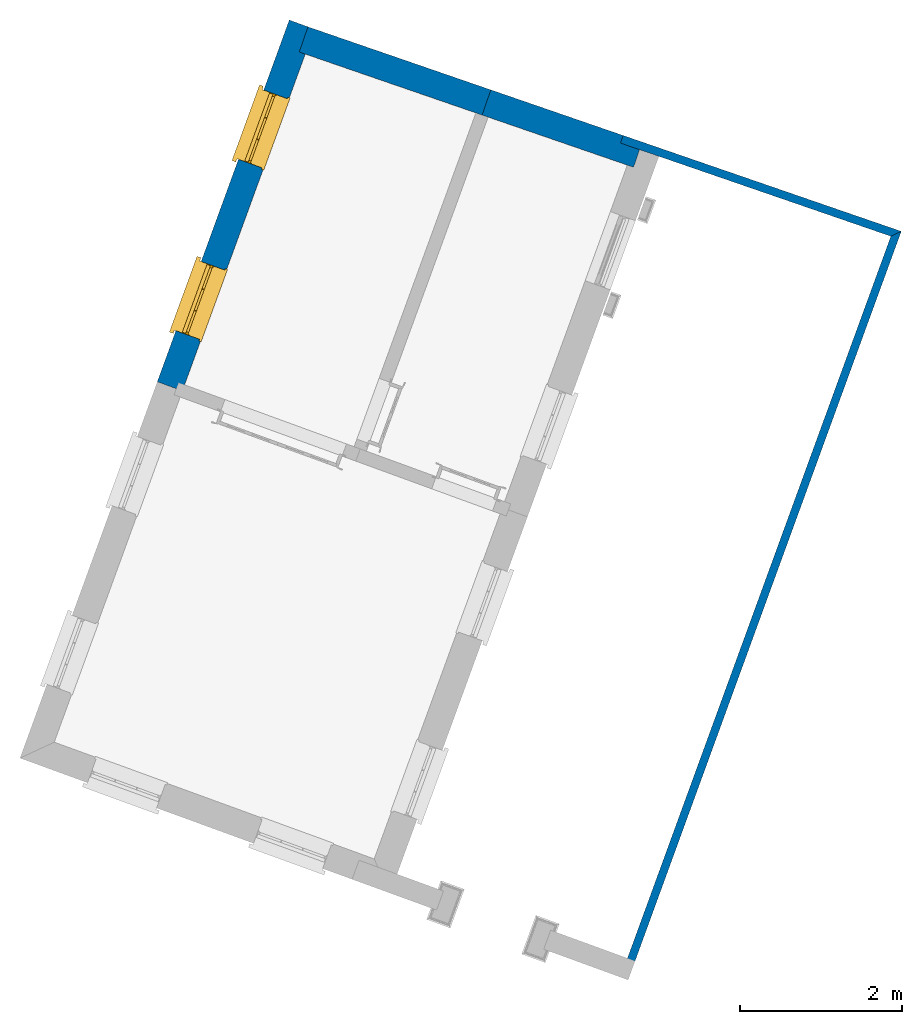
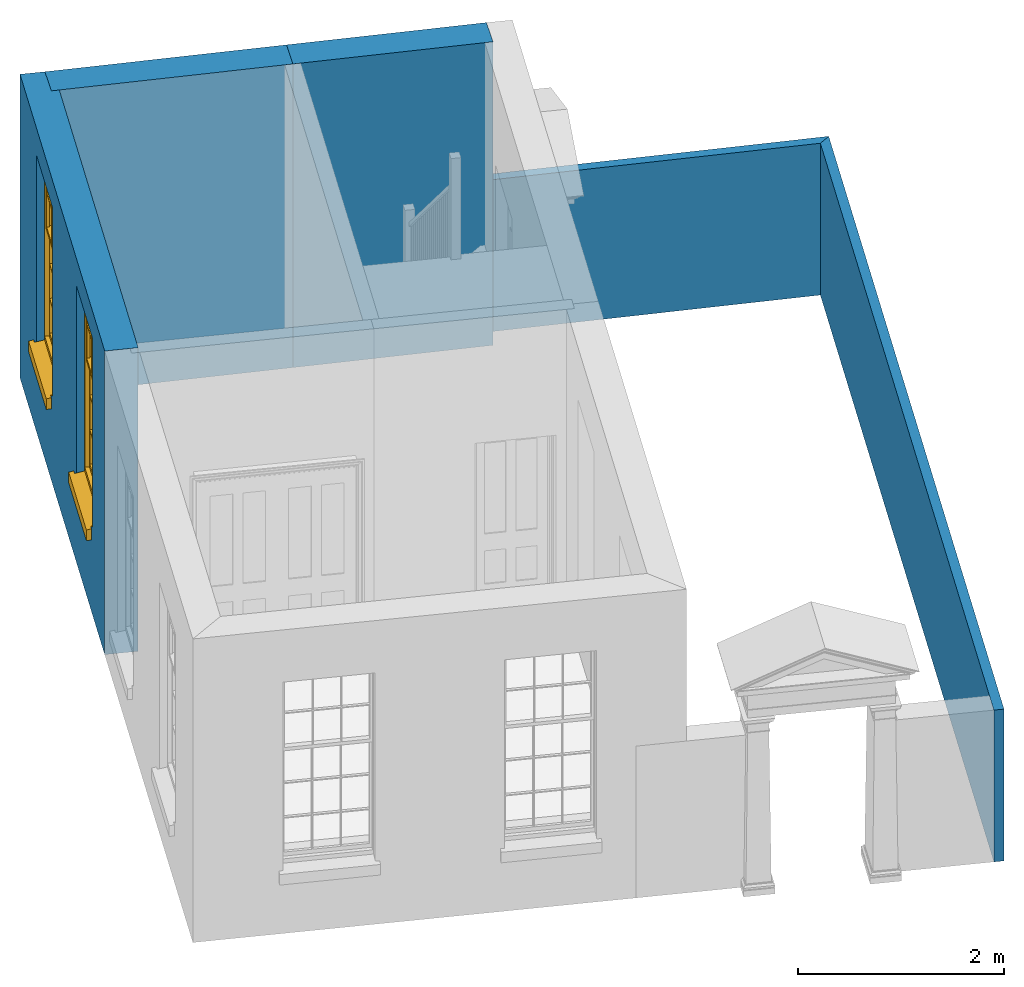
# One storey, part 6 of 6: 5 walls, 2 windows, 2 openings.
"""IFC4 building model written with IfcOpenShell, lengths in metres."""

from ifc_helpers import new_model, si_unit, frame, origin, origin_with_axes, place, context, subcontext, project, spatial, polyline, outline, extrude, faceted_brep, source, transform, mapped, material, layer, layer_set, layer_usage, type_object, type_shapes, element, fill, save


model = new_model("IFC4")

# Units and contexts
model_context = context("Model", 3, world=origin_with_axes())
body_context = subcontext(model_context, "Body", "Model", "MODEL_VIEW")
ifc_project = project(units=[si_unit("PLANEANGLEUNIT", "RADIAN"), si_unit("MASSUNIT", "GRAM", prefix="KILO"), si_unit("FORCEUNIT", "NEWTON", prefix="KILO"), si_unit("LENGTHUNIT", "METRE"), si_unit("AREAUNIT", "SQUARE_METRE"), si_unit("VOLUMEUNIT", "CUBIC_METRE")], contexts=[model_context, model_context])

# Sites, building, storey
site_1_placement = place(None, origin_with_axes())
site_1 = spatial("IfcSite", under=ifc_project, at=site_1_placement, Name="Tamar")
site_2_placement = place(site_1_placement, origin_with_axes())
site_2 = spatial("IfcSite", under=site_1, at=site_2_placement, Name="Site plot-12", CompositionType="ELEMENT")
building_placement = place(None, origin_with_axes())
building = spatial("IfcBuilding", under=site_2, at=building_placement, Name="Building plot-12", CompositionType="ELEMENT")
storey_placement = place(None, frame((0.0, 0.0, 26.0), z_axis=(0.0, 0.0, 1.0), x_axis=(1.0, 0.0, 0.0)))
storey = spatial("IfcBuildingStorey", under=building, at=storey_placement, Name="plot-12 0", CompositionType="ELEMENT", Elevation=26.0)

# Wall, openings, windows
ifc_material_1 = material(Name="Masonry")
ifc_layer_1 = layer(ifc_material_1, 0.33, ventilated=False)
ifc_layer_set_1 = layer_set([ifc_layer_1], Name="exterior_0.08_0.25")
ifc_layer_usage_1 = layer_usage(ifc_layer_set_1, "AXIS2", "POSITIVE", -0.25)
wall_type_1 = type_object("IfcWallType", Name="exterior_0.08_0.25", PredefinedType="SOLIDWALL", material=ifc_layer_set_1)
wall_1_placement = place(storey_placement, frame((236.923699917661, 310.05769530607, 0.0), z_axis=(0.0, 0.0, 1.0), x_axis=(-0.342734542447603, -0.939432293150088, 0.0)))
wall_1 = element("IfcWall", 1, at=wall_1_placement, inside=storey, type_object=wall_type_1, material=ifc_layer_usage_1, Name="exterior", context=body_context, shape_type="SweptSolid", body=[
    extrude(outline(polyline([(-0.249999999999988, 0.0800000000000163), (-0.25000000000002, -0.249999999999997), (4.50943219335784, -0.250000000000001), (4.50943219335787, 0.0800000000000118), (-0.249999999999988, 0.0800000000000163)])), origin_with_axes(), (0.0, 0.0, 1.0), 3.6),
])
opening_1_placement = place(wall_1_placement, frame((0.672358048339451, 0.0, 1.05)))
opening_1 = element("IfcOpeningElement", 2, at=opening_1_placement, cuts=wall_1, Name="My Opening", ObjectType="Opening", context=body_context, shape_type="SweptSolid", body=[
    extrude(outline(polyline([(0.0, -0.269999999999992), (0.910000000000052, -0.269999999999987), (0.910000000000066, 1.1), (1.47659662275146e-14, 1.09999999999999), (0.0, -0.269999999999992)])), origin_with_axes(), (0.0, 0.0, 1.0), 2.23),
])
opening_2_placement = place(wall_1_placement, frame((2.92707414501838, 0.0, 1.05)))
opening_2 = element("IfcOpeningElement", 3, at=opening_2_placement, cuts=wall_1, Name="My Opening", ObjectType="Opening", context=body_context, shape_type="SweptSolid", body=[
    extrude(outline(polyline([(0.0, -0.26999999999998), (0.910000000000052, -0.269999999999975), (0.910000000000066, 1.10000000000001), (1.4210854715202e-14, 1.10000000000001), (0.0, -0.26999999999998)])), origin_with_axes(), (0.0, 0.0, 1.0), 2.23),
])
window_type = type_object("IfcWindowType", Name="sash_big_taller", PartitioningType="DOUBLE_PANEL_HORIZONTAL", PredefinedType="NOTDEFINED")
shared_shape = source(origin(), body_context, "Body", "Brep", [
    faceted_brep([(0.033125, 0.145, 1.385209), (0.01, 0.145, 1.385209), (0.033125, 0.145, 1.786042), (0.876875, 0.145, 1.385209), (0.876875, 0.145, 1.786042), (0.9, 0.145, 1.385209), (0.876875, 0.145, 1.796042), (0.876875, 0.145, 2.196875), (0.9, 0.145, 2.22), (0.033125, 0.145, 2.196875), (0.033125, 0.145, 1.796042), (0.01, 0.145, 2.22), (0.876875, 0.115, 1.786042), (0.876875, 0.115, 1.385209), (0.9, 0.115, 1.347084), (0.033125, 0.115, 2.196875), (0.01, 0.115, 2.22), (0.033125, 0.115, 1.796042), (0.01, 0.115, 1.347084), (0.033125, 0.115, 1.385209), (0.033125, 0.115, 1.786042), (0.876875, 0.115, 2.196875), (0.876875, 0.115, 1.796042), (0.9, 0.115, 2.22), (0.033125, 0.145, 1.347084), (0.01, 0.145, 1.347084), (0.033125, 0.145, 0.94625), (0.876875, 0.145, 1.347084), (0.876875, 0.145, 0.94625), (0.9, 0.145, 1.347084), (0.876875, 0.145, 0.52625), (0.876875, 0.145, 0.125417), (0.9, 0.145, 0.077167), (0.033125, 0.145, 0.125417), (0.033125, 0.145, 0.52625), (0.01, 0.145, 0.077167), (-0.0425, 0.0, 0.01), (-0.0425, -0.05, 0.001667), (0.0, 0.0, 0.01), (0.9525, 0.0, 0.01), (0.91, 0.0, 0.01), (0.9525, -0.05, 0.001667), (-0.02, 0.33, 0.077167), (0.0, 0.33, 0.077167), (-0.02, 0.36, 0.077167), (0.0, 0.19, 0.077167), (0.01, 0.19, 0.077167), (0.91, 0.19, 0.077167), (0.91, 0.33, 0.077167), (0.9, 0.19, 0.077167), (0.93, 0.33, 0.077167), (0.93, 0.36, 0.077167), (0.01, 0.175, 1.385209), (0.9, 0.175, 1.385209), (0.876875, 0.175, 0.125417), (0.876875, 0.175, 0.52625), (0.9, 0.175, 0.077167), (0.876875, 0.175, 0.94625), (0.876875, 0.175, 1.347084), (0.033125, 0.175, 0.125417), (0.01, 0.175, 0.077167), (0.033125, 0.175, 0.52625), (0.033125, 0.175, 1.347084), (0.033125, 0.175, 0.94625), (-0.02, 0.33, 0.052167), (-0.02, 0.36, 0.052167), (0.93, 0.36, 0.052167), (0.93, 0.33, 0.052167), (0.91, 0.33, 0.052167), (0.0, 0.33, 0.052167), (0.91, 0.1, 0.026667), (0.0, 0.1, 0.026667), (-0.0425, -0.05, -0.123333), (0.9525, -0.05, -0.123333), (-0.0425, 0.0, -0.123333), (0.9525, 0.0, -0.123333), (0.01, 0.19, 2.22), (0.9, 0.19, 2.22), (0.0, 0.19, 2.23), (0.91, 0.19, 2.23), (0.01, 0.1, 0.077167), (0.9, 0.1, 0.077167), (0.592292, 0.145, 0.125417), (0.592292, 0.175, 0.125417), (0.317708, 0.175, 0.125417), (0.317708, 0.145, 0.125417), (0.592292, 0.145, 0.53625), (0.317708, 0.145, 0.53625), (0.317708, 0.145, 0.52625), (0.592292, 0.145, 0.52625), (0.592292, 0.175, 0.53625), (0.317708, 0.175, 0.53625), (0.592292, 0.115, 1.796042), (0.592292, 0.145, 1.796042), (0.317708, 0.145, 1.796042), (0.317708, 0.115, 1.796042), (0.317708, 0.115, 1.786042), (0.592292, 0.115, 1.786042), (0.317708, 0.145, 1.786042), (0.592292, 0.145, 1.786042), (0.602292, 0.115, 1.786042), (0.592292, 0.115, 1.385209), (0.602292, 0.115, 1.385209), (0.602292, 0.145, 1.385209), (0.592292, 0.145, 1.385209), (0.602292, 0.145, 1.786042), (0.876875, 0.145, 0.53625), (0.876875, 0.175, 0.53625), (0.602292, 0.175, 0.53625), (0.602292, 0.145, 0.53625), (0.317708, 0.175, 0.52625), (0.307708, 0.175, 0.125417), (0.307708, 0.175, 0.52625), (0.602292, 0.175, 0.52625), (0.602292, 0.175, 0.125417), (0.592292, 0.175, 0.52625), (0.307708, 0.175, 0.53625), (0.033125, 0.175, 0.53625), (0.317708, 0.175, 1.347084), (0.317708, 0.175, 0.94625), (0.307708, 0.175, 0.94625), (0.307708, 0.175, 1.347084), (0.602292, 0.175, 1.347084), (0.602292, 0.175, 0.94625), (0.592292, 0.175, 0.94625), (0.592292, 0.175, 1.347084), (0.307708, 0.145, 0.52625), (0.307708, 0.145, 0.125417), (0.307708, 0.145, 0.53625), (0.033125, 0.145, 0.53625), (0.307708, 0.145, 1.347084), (0.307708, 0.145, 0.94625), (0.592292, 0.145, 1.347084), (0.592292, 0.145, 0.94625), (0.317708, 0.145, 0.94625), (0.317708, 0.145, 1.347084), (0.602292, 0.145, 0.94625), (0.602292, 0.145, 1.347084), (0.602292, 0.145, 0.52625), (0.602292, 0.145, 0.125417), (0.307708, 0.115, 1.796042), (0.307708, 0.115, 1.786042), (0.307708, 0.115, 1.385209), (0.317708, 0.115, 1.385209), (0.317708, 0.115, 2.196875), (0.307708, 0.115, 2.196875), (0.602292, 0.115, 2.196875), (0.592292, 0.115, 2.196875), (0.602292, 0.115, 1.796042), (0.602292, 0.145, 1.796042), (0.307708, 0.145, 1.796042), (0.307708, 0.145, 2.196875), (0.317708, 0.145, 2.196875), (0.592292, 0.145, 2.196875), (0.602292, 0.145, 2.196875), (0.307708, 0.145, 1.786042), (0.317708, 0.145, 1.385209), (0.307708, 0.145, 1.385209), (0.876875, 0.175, 0.93625), (0.033125, 0.175, 0.93625), (0.033125, 0.145, 0.93625), (0.876875, 0.145, 0.93625), (0.91, 0.1, 2.23), (0.9, 0.1, 2.22), (0.01, 0.1, 2.22), (0.0, 0.1, 2.23), (0.91, 0.0, 0.0), (0.0, 0.0, 0.0), (0.91, 0.33, 0.0), (0.0, 0.33, 0.0), (0.317708, 0.145, 0.93625), (0.592292, 0.145, 0.93625), (0.317708, 0.175, 0.93625), (0.307708, 0.175, 0.93625), (0.602292, 0.175, 0.93625), (0.592292, 0.175, 0.93625), (0.307708, 0.145, 0.93625), (0.602292, 0.145, 0.93625)], [[[0, 1, 2]], [[3, 4, 5]], [[6, 7, 8]], [[9, 10, 11]], [[12, 13, 14]], [[15, 16, 17]], [[18, 19, 20]], [[21, 22, 23]], [[24, 25, 26]], [[27, 28, 29]], [[30, 31, 32]], [[33, 34, 35]], [[14, 27, 29]], [[25, 24, 18]], [[36, 37, 38]], [[39, 40, 41]], [[42, 43, 44]], [[45, 46, 43]], [[47, 48, 49]], [[50, 51, 48]], [[1, 0, 52]], [[5, 53, 3]], [[54, 55, 56]], [[57, 58, 53]], [[59, 60, 61]], [[62, 63, 52]], [[48, 43, 46, 49]], [[51, 44, 43, 48]], [[64, 42, 44, 65]], [[65, 44, 51, 66]], [[66, 51, 50, 67]], [[65, 66, 68, 69]], [[60, 56, 49, 46]], [[70, 71, 38, 40]], [[37, 41, 40, 38]], [[37, 72, 73, 41]], [[74, 75, 73, 72]], [[8, 11, 76, 77]], [[76, 78, 79, 77]], [[32, 35, 80, 81]], [[81, 80, 71, 70]], [[82, 83, 84, 85]], [[86, 87, 88, 89]], [[86, 90, 91, 87]], [[92, 93, 94, 95]], [[92, 95, 96, 97]], [[96, 98, 99, 97]], [[100, 97, 101, 102]], [[103, 104, 99, 105]], [[97, 99, 104, 101]], [[102, 103, 105, 100]], [[106, 107, 108, 109]], [[110, 84, 111, 112]], [[113, 114, 83, 115]], [[116, 112, 61, 117]], [[90, 115, 110, 91]], [[118, 119, 120, 121]], [[122, 123, 124, 125]], [[113, 108, 107, 55]], [[126, 112, 111, 127]], [[34, 61, 112, 126]], [[89, 115, 83, 82]], [[88, 110, 115, 89]], [[85, 84, 110, 88]], [[128, 116, 117, 129]], [[130, 121, 120, 131]], [[132, 125, 124, 133]], [[134, 119, 118, 135]], [[136, 123, 122, 137]], [[138, 113, 55, 30]], [[139, 114, 113, 138]], [[138, 30, 106, 109]], [[88, 126, 127, 85]], [[138, 89, 82, 139]], [[137, 132, 133, 136]], [[128, 129, 34, 126]], [[135, 130, 131, 134]], [[140, 17, 20, 141]], [[96, 141, 142, 143]], [[144, 145, 140, 95]], [[146, 147, 92, 148]], [[100, 12, 22, 148]], [[149, 6, 4, 105]], [[94, 150, 151, 152]], [[149, 93, 153, 154]], [[99, 98, 94, 93]], [[155, 2, 10, 150]], [[156, 157, 155, 98]], [[141, 155, 157, 142]], [[20, 2, 155, 141]], [[143, 156, 98, 96]], [[140, 150, 10, 17]], [[145, 151, 150, 140]], [[147, 153, 93, 92]], [[95, 94, 152, 144]], [[22, 6, 149, 148]], [[148, 149, 154, 146]], [[100, 105, 4, 12]], [[109, 86, 89, 138]], [[108, 113, 115, 90]], [[91, 110, 112, 116]], [[87, 128, 126, 88]], [[97, 100, 148, 92]], [[141, 96, 95, 140]], [[98, 155, 150, 94]], [[105, 99, 93, 149]], [[143, 101, 104, 156]], [[135, 118, 125, 132]], [[144, 152, 153, 147]], [[127, 111, 59, 33]], [[15, 9, 151, 145]], [[146, 154, 7, 21]], [[31, 54, 114, 139]], [[36, 74, 72, 37]], [[39, 41, 73, 75]], [[18, 14, 101, 143]], [[23, 16, 144, 147]], [[83, 56, 60, 84]], [[52, 53, 125, 118]], [[53, 52, 156, 104]], [[11, 8, 153, 152]], [[14, 18, 135, 132]], [[2, 1, 11, 10]], [[8, 5, 4, 6]], [[57, 53, 56, 158]], [[60, 52, 63, 159]], [[26, 25, 35, 160]], [[32, 29, 28, 161]], [[14, 23, 22, 12]], [[18, 20, 17, 16]], [[19, 0, 2, 20]], [[17, 10, 9, 15]], [[12, 4, 3, 13]], [[21, 7, 6, 22]], [[27, 58, 57, 28]], [[30, 55, 54, 31]], [[33, 59, 61, 34]], [[26, 63, 62, 24]], [[5, 8, 77, 53]], [[76, 11, 1, 52]], [[46, 45, 78, 76]], [[49, 77, 79, 47]], [[70, 162, 163, 81]], [[71, 80, 164, 165]], [[19, 142, 157, 0]], [[102, 13, 3, 103]], [[121, 130, 24, 62]], [[29, 32, 81, 14]], [[80, 35, 25, 18]], [[60, 46, 76, 52]], [[77, 49, 56, 53]], [[23, 14, 81, 163]], [[16, 164, 80, 18]], [[35, 85, 127]], [[127, 33, 35]], [[139, 82, 32]], [[32, 31, 139]], [[32, 82, 85, 35]], [[102, 101, 14]], [[14, 13, 102]], [[18, 143, 142]], [[142, 19, 18]], [[146, 21, 23]], [[23, 147, 146]], [[16, 15, 145]], [[145, 144, 16]], [[11, 152, 151]], [[151, 9, 11]], [[154, 153, 8]], [[8, 7, 154]], [[23, 163, 164, 16]], [[162, 165, 164, 163]], [[52, 118, 121]], [[121, 62, 52]], [[125, 53, 122]], [[58, 122, 53]], [[27, 137, 122, 58]], [[56, 83, 114]], [[114, 54, 56]], [[111, 84, 60]], [[60, 59, 111]], [[137, 27, 14]], [[14, 132, 137]], [[130, 135, 18]], [[18, 24, 130]], [[157, 156, 52]], [[52, 0, 157]], [[103, 3, 53]], [[53, 104, 103]], [[79, 78, 165, 162]], [[78, 45, 71, 165]], [[162, 70, 47, 79]], [[166, 75, 74, 167]], [[68, 66, 67]], [[48, 68, 67, 50]], [[69, 64, 65]], [[42, 64, 69, 43]], [[69, 68, 168, 169]], [[70, 68, 48, 47]], [[166, 168, 68, 70]], [[43, 69, 71, 45]], [[69, 169, 167, 71]], [[168, 166, 167, 169]], [[38, 167, 74, 36]], [[71, 167, 38]], [[39, 75, 166, 40]], [[40, 166, 70]], [[133, 134, 170, 171]], [[133, 124, 119, 134]], [[28, 57, 123, 136]], [[172, 91, 116, 173]], [[174, 108, 90, 175]], [[120, 173, 159, 63]], [[124, 175, 172, 119]], [[174, 123, 57, 158]], [[176, 173, 116, 128]], [[160, 159, 173, 176]], [[171, 175, 90, 86]], [[170, 172, 175, 171]], [[87, 91, 172, 170]], [[131, 120, 63, 26]], [[177, 174, 158, 161]], [[109, 108, 174, 177]], [[177, 161, 28, 136]], [[170, 176, 128, 87]], [[177, 171, 86, 109]], [[131, 26, 160, 176]], [[136, 133, 171, 177]], [[123, 174, 175, 124]], [[119, 172, 173, 120]], [[134, 131, 176, 170]], [[129, 117, 159, 160]], [[161, 158, 107, 106]], [[35, 34, 129]], [[35, 129, 160]], [[32, 106, 30]], [[32, 161, 106]], [[56, 55, 107]], [[56, 107, 158]], [[60, 117, 61]], [[60, 159, 117]]]),
])
type_shapes(window_type, [shared_shape])
window_1_placement = place(storey_placement, frame((236.439612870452, 309.518598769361, 1.05), z_axis=(0.0, 0.0, 1.0), x_axis=(-0.311888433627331, -0.85488338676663, 0.0)))
window_1 = element("IfcWindow", 4, at=window_1_placement, inside=storey, type_object=window_type, Name="kitchen street window", OverallHeight=2.23, OverallWidth=0.91, context=body_context, shape_type="MappedRepresentation", body=[
    mapped(shared_shape, transform((0.0, 0.0, 0.0), scale=1.0)),
])
fill(opening_1, window_1)
window_2_placement = place(storey_placement, frame((235.666843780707, 307.400445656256, 1.05), z_axis=(0.0, 0.0, 1.0), x_axis=(-0.311888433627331, -0.85488338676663, 0.0)))
window_2 = element("IfcWindow", 5, at=window_2_placement, inside=storey, type_object=window_type, Name="kitchen street window", OverallHeight=2.23, OverallWidth=0.91, context=body_context, shape_type="MappedRepresentation", body=[
    mapped(shared_shape, transform((0.0, 0.0, 0.0), scale=1.0)),
])
fill(opening_2, window_2)

# Walls
ifc_material_2 = material(Name="Masonry")
ifc_layer_2 = layer(ifc_material_2, 0.33, ventilated=False)
ifc_layer_set_2 = layer_set([ifc_layer_2], Name="party_0.08_0.25")
ifc_layer_usage_2 = layer_usage(ifc_layer_set_2, "AXIS2", "POSITIVE", -0.25)
wall_type_2 = type_object("IfcWallType", Name="party_0.08_0.25", PredefinedType="SOLIDWALL", material=ifc_layer_set_2)
wall_2_placement = place(storey_placement, frame((241.054904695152, 308.633725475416, 0.0), z_axis=(0.0, 0.0, 1.0), x_axis=(-0.945414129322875, 0.325871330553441, 0.0)))
element("IfcWall", 6, at=wall_2_placement, inside=storey, type_object=wall_type_2, material=ifc_layer_usage_2, Name="party", context=body_context, shape_type="SweptSolid", body=[
    extrude(outline(polyline([(7.50112444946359e-15, 0.0799999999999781), (-4.5921174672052e-15, -0.250000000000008), (1.97949901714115, -0.250000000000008), (1.97949901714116, 0.0799999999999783), (7.50112444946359e-15, 0.0799999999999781)])), origin_with_axes(), (0.0, 0.0, 1.0), 3.6),
])
wall_3_placement = place(storey_placement, frame((239.183458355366, 309.278787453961, 0.0), z_axis=(0.0, 0.0, 1.0), x_axis=(-0.945414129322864, 0.325871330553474, 0.0)))
element("IfcWall", 7, at=wall_3_placement, inside=storey, type_object=wall_type_2, material=ifc_layer_usage_2, Name="party", context=body_context, shape_type="SweptSolid", body=[
    extrude(outline(polyline([(4.73000777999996e-15, 0.0799999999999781), (4.06762212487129e-15, -0.250000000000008), (2.3902312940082, -0.250000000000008), (2.3902312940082, 0.0799999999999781), (4.73000777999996e-15, 0.0799999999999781)])), origin_with_axes(), (0.0, 0.0, 1.0), 3.6),
])
ifc_material_3 = material(Name="Masonry")
ifc_layer_3 = layer(ifc_material_3, 0.1, ventilated=False)
ifc_layer_set_3 = layer_set([ifc_layer_3], Name="fence_-0.15_0.25")
ifc_layer_usage_3 = layer_usage(ifc_layer_set_3, "AXIS2", "POSITIVE", -0.25)
wall_type_3 = type_object("IfcWallType", Name="fence_-0.15_0.25", PredefinedType="SOLIDWALL", material=ifc_layer_set_3)
wall_4_placement = place(storey_placement, frame((240.812870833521, 298.83505278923, 0.0), z_axis=(0.0, 0.0, 1.0), x_axis=(0.34273454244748, 0.939432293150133, 0.0)))
element("IfcWall", 8, at=wall_4_placement, inside=storey, type_object=wall_type_3, material=ifc_layer_usage_3, Name="fence", context=body_context, shape_type="SweptSolid", body=[
    extrude(outline(polyline([(-0.250000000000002, -0.150000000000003), (-0.24999999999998, -0.249999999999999), (9.59868502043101, -0.250000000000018), (9.49687952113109, -0.150000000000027), (-0.250000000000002, -0.150000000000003)])), origin_with_axes(), (0.0, 0.0, 1.0), 1.8),
])
wall_5_placement = place(storey_placement, frame((244.015441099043, 307.613269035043, 0.0), z_axis=(0.0, 0.0, 1.0), x_axis=(-0.945414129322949, 0.325871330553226, 0.0)))
element("IfcWall", 9, at=wall_5_placement, inside=storey, type_object=wall_type_3, material=ifc_layer_usage_3, Name="fence", context=body_context, shape_type="SweptSolid", body=[
    extrude(outline(polyline([(-0.152708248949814, -0.149999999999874), (-0.254513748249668, -0.249999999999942), (3.38147044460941, -0.24999999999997), (3.38147044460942, -0.149999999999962), (-0.152708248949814, -0.149999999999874)])), origin_with_axes(), (0.0, 0.0, 1.0), 1.8),
])

save(model, "model.ifc")
